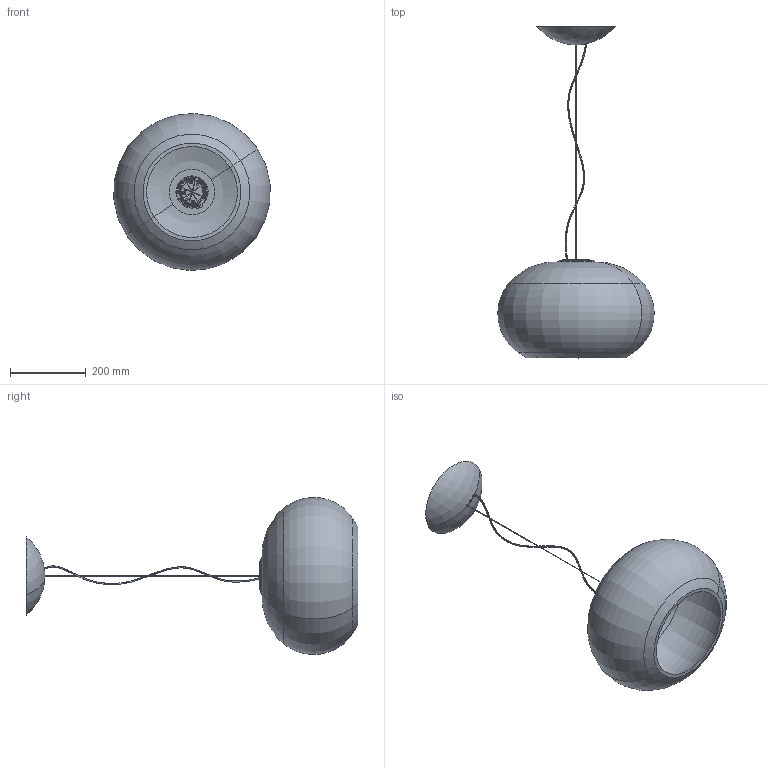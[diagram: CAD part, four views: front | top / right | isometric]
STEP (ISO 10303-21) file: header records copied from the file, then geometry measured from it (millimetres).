
FILE_DESCRIPTION (( 'STEP AP214' ), '1' );
FILE_NAME ('278_2_S_LD_3D.STEP', '2021-05-17T09:56:05', ( '' ), ( '' ), 'SwSTEP 2.0', 'SolidWorks 2021', '' );
FILE_SCHEMA (( 'AUTOMOTIVE_DESIGN' ));
Length unit declared in the file: millimetre
Products named in the file (1): 278_2_S_LD_3D
Bounding box: 413.13 x 876.58 x 414.89 mm (x, y, z)
Volume: 2486643.3 mm3; surface area: 882424.4 mm2
Topology: 5 solids, 5 shells, 1300 faces, 3364 edges, 2042 vertices
Faces by surface type: bspline 477, plane 337, cylinder 194, torus 169, cone 89, sphere 34
Entity records: 66577 total; most frequent: CARTESIAN_POINT 25125, ORIENTED_EDGE 6580, DIRECTION 4445, EDGE_CURVE 3290, VERTEX_POINT 2042, AXIS2_PLACEMENT_3D 1826, EDGE_LOOP 1368, B_SPLINE_CURVE_WITH_KNOTS 1342
